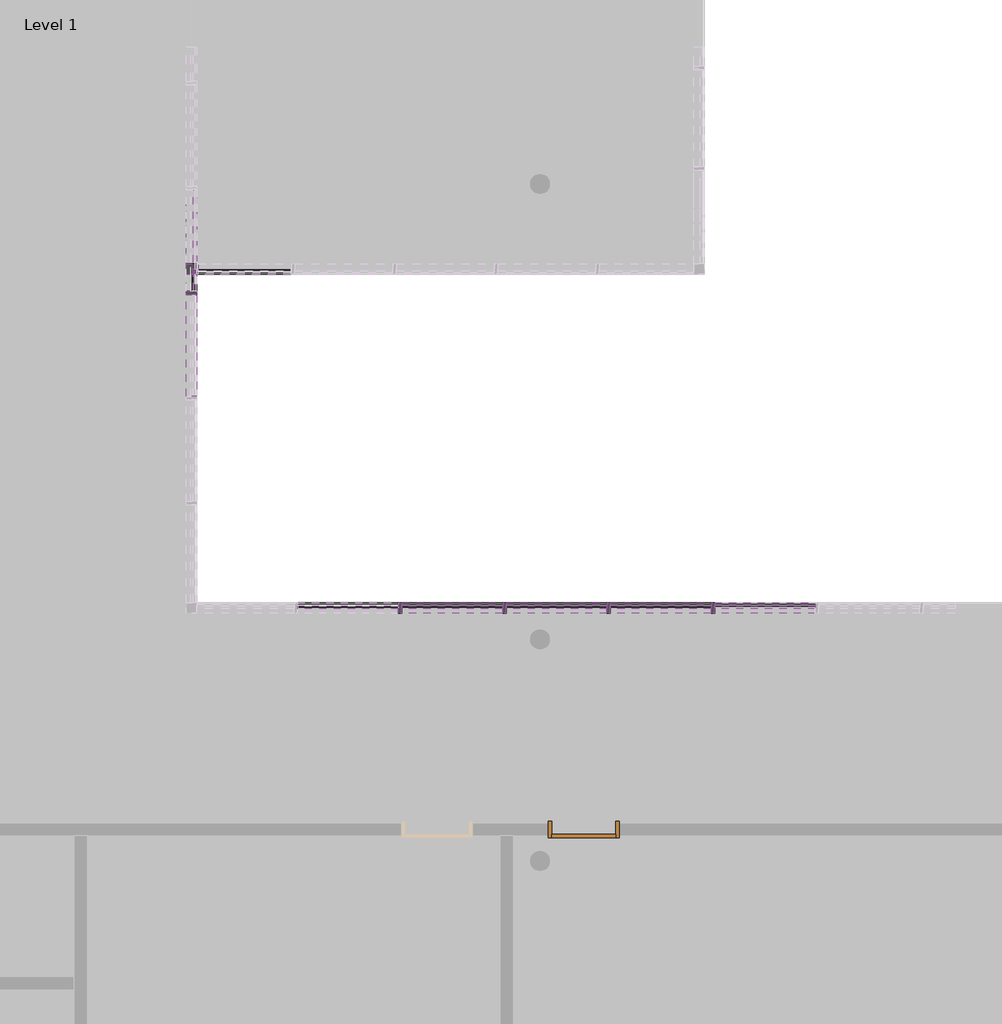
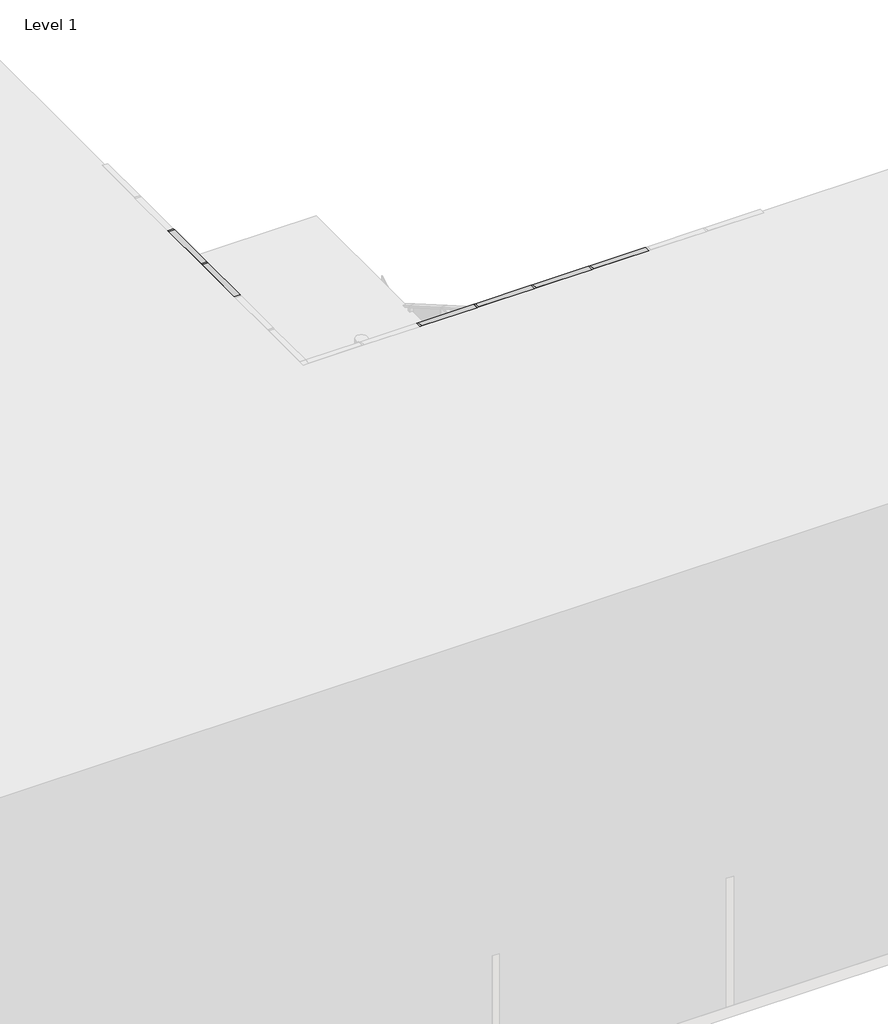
# One storey, part 2 of 27: 92 members, 36 plates, 1 door.
"""IFC4 building model written with IfcOpenShell, lengths in millimetres."""

from ifc_helpers import new_model, si_unit, origin, place, context, project, spatial, transform, mapped, element, save
from components import door_0915mm_x_2134mm_2aa27b83, quad_corner_mullion_quad_mullion_1_37ac55ff, quad_corner_mullion_quad_mullion_1_d5379b67, quad_corner_mullion_quad_mullion_1_470f416b, rectangular_mullion_50mm_x_150mm_5f185edf, rectangular_mullion_50mm_x_150mm_e13fe9f0, rectangular_mullion_50mm_x_150mm_70cae3e1, rectangular_mullion_50mm_x_150mm_5226f6e8, rectangular_mullion_50mm_x_150mm_3bb547da, rectangular_mullion_50mm_x_150mm_bbc1c4ea, rectangular_mullion_50mm_x_150mm_36202a7c, rectangular_mullion_50mm_x_150mm_84717ec5, rectangular_mullion_50mm_x_150mm_a6a3d5e8, rectangular_mullion_50mm_x_150mm_c3a19aad, rectangular_mullion_50mm_x_150mm_56029db9, rectangular_mullion_50mm_x_150mm_d48598d6, rectangular_mullion_50mm_x_150mm_1a36453b, system_panel_glazed_65478968, system_panel_glazed_4c130a31, system_panel_glazed_979b1f5c, system_panel_glazed_5501cdc8, system_panel_glazed_25246cb8, system_panel_solid_368a6b70, system_panel_solid_ece33ae8, system_panel_solid_7338a288, system_panel_solid_89a25cb9

model = new_model("IFC4")

# Units and contexts
model_context = context("Model", 3, world=origin())
ifc_project = project(units=[si_unit("LENGTHUNIT", "METRE", prefix="MILLI")], contexts=[model_context])

# Site, building, storey
site = spatial("IfcSite", under=ifc_project)
building = spatial("IfcBuilding", under=site)
storey = spatial("IfcBuildingStorey", under=building, Name="Level 1", Elevation=0.0)

# Door
placement = place(None, origin())
door_0915mm_x_2134mm_shape = door_0915mm_x_2134mm_2aa27b83(model_context)
element("IfcDoor", 1, ObjectType="m-doors-hm-f1-a : 0915mm x 2134mm", at=placement, inside=storey, context=model_context, shape_type="MappedRepresentation", body=[
    mapped(door_0915mm_x_2134mm_shape, transform((13061.1968037, -15479.7006057, 0.0), x_axis=(-1.0, 0.0, 0.0), y_axis=(0.0, -1.0, 0.0), z_axis=(0.0, 0.0, 1.0))),
])

# Members
quad_corner_mullion_quad_mullion_1_shape = quad_corner_mullion_quad_mullion_1_37ac55ff(model_context)
element("IfcMember", 2, ObjectType="Quad Corner Mullion : Quad Mullion 1", at=placement, inside=storey, context=model_context, shape_type="MappedRepresentation", body=[
    mapped(quad_corner_mullion_quad_mullion_1_shape, transform((7447.5010724, -7283.8611817, 0.0), x_axis=(0.0, 1.0, 0.0), y_axis=(1.0, 0.0, 0.0), z_axis=(0.0, 0.0, -1.0))),
])
quad_corner_mullion_quad_mullion_1_2_shape = quad_corner_mullion_quad_mullion_1_d5379b67(model_context)
element("IfcMember", 3, ObjectType="Quad Corner Mullion : Quad Mullion 1", at=placement, inside=storey, context=model_context, shape_type="MappedRepresentation", body=[
    mapped(quad_corner_mullion_quad_mullion_1_2_shape, transform((7447.5010724, -7283.8611817, 2440.0), x_axis=(0.0, 1.0, 0.0), y_axis=(1.0, 0.0, 0.0), z_axis=(0.0, 0.0, -1.0))),
])
element("IfcMember", 4, ObjectType="Quad Corner Mullion : Quad Mullion 1", at=placement, inside=storey, context=model_context, shape_type="MappedRepresentation", body=[
    mapped(quad_corner_mullion_quad_mullion_1_shape, transform((7447.5010724, -7283.8611817, 3800.0), x_axis=(0.0, 1.0, 0.0), y_axis=(1.0, 0.0, 0.0), z_axis=(0.0, 0.0, -1.0))),
])
quad_corner_mullion_quad_mullion_1_3_shape = quad_corner_mullion_quad_mullion_1_470f416b(model_context)
element("IfcMember", 5, ObjectType="Quad Corner Mullion : Quad Mullion 1", at=placement, inside=storey, context=model_context, shape_type="MappedRepresentation", body=[
    mapped(quad_corner_mullion_quad_mullion_1_3_shape, transform((7447.5010724, -7283.8611817, 6240.0), x_axis=(0.0, 1.0, 0.0), y_axis=(1.0, 0.0, 0.0), z_axis=(0.0, 0.0, -1.0))),
])
rectangular_mullion_50mm_x_150mm_shape = rectangular_mullion_50mm_x_150mm_5f185edf(model_context)
element("IfcMember", 6, ObjectType="Rectangular Mullion : 50mm x 150mm", at=placement, inside=storey, context=model_context, shape_type="MappedRepresentation", body=[
    mapped(rectangular_mullion_50mm_x_150mm_shape, transform((14934.8671735, -12132.3615692, 12400.0), x_axis=(0.0, 0.0, 1.0), y_axis=(0.0, 1.0, 0.0), z_axis=(-1.0, 0.0, 0.0))),
])
element("IfcMember", 7, ObjectType="Rectangular Mullion : 50mm x 150mm", at=placement, inside=storey, context=model_context, shape_type="MappedRepresentation", body=[
    mapped(rectangular_mullion_50mm_x_150mm_shape, transform((13442.3939533, -12132.3615692, 12400.0), x_axis=(0.0, 0.0, 1.0), y_axis=(0.0, 1.0, 0.0), z_axis=(-1.0, 0.0, 0.0))),
])
element("IfcMember", 8, ObjectType="Rectangular Mullion : 50mm x 150mm", at=placement, inside=storey, context=model_context, shape_type="MappedRepresentation", body=[
    mapped(rectangular_mullion_50mm_x_150mm_shape, transform((11949.9207332, -12132.3615692, 12400.0), x_axis=(0.0, 0.0, 1.0), y_axis=(0.0, 1.0, 0.0), z_axis=(-1.0, 0.0, 0.0))),
])
element("IfcMember", 9, ObjectType="Rectangular Mullion : 50mm x 150mm", at=placement, inside=storey, context=model_context, shape_type="MappedRepresentation", body=[
    mapped(rectangular_mullion_50mm_x_150mm_shape, transform((10457.447513, -12132.3615692, 12400.0), x_axis=(0.0, 0.0, 1.0), y_axis=(0.0, 1.0, 0.0), z_axis=(-1.0, 0.0, 0.0))),
])
element("IfcMember", 10, ObjectType="Rectangular Mullion : 50mm x 150mm", at=placement, inside=storey, context=model_context, shape_type="MappedRepresentation", body=[
    mapped(rectangular_mullion_50mm_x_150mm_shape, transform((14884.8671735, -12132.3615692, 0.0), x_axis=(0.0, 0.0, -1.0), y_axis=(0.0, 1.0, 0.0), z_axis=(1.0, 0.0, 0.0))),
])
element("IfcMember", 11, ObjectType="Rectangular Mullion : 50mm x 150mm", at=placement, inside=storey, context=model_context, shape_type="MappedRepresentation", body=[
    mapped(rectangular_mullion_50mm_x_150mm_shape, transform((13392.3939533, -12132.3615692, 0.0), x_axis=(0.0, 0.0, -1.0), y_axis=(0.0, 1.0, 0.0), z_axis=(1.0, 0.0, 0.0))),
])
element("IfcMember", 12, ObjectType="Rectangular Mullion : 50mm x 150mm", at=placement, inside=storey, context=model_context, shape_type="MappedRepresentation", body=[
    mapped(rectangular_mullion_50mm_x_150mm_shape, transform((11899.9207332, -12132.3615692, 0.0), x_axis=(0.0, 0.0, -1.0), y_axis=(0.0, 1.0, 0.0), z_axis=(1.0, 0.0, 0.0))),
])
element("IfcMember", 13, ObjectType="Rectangular Mullion : 50mm x 150mm", at=placement, inside=storey, context=model_context, shape_type="MappedRepresentation", body=[
    mapped(rectangular_mullion_50mm_x_150mm_shape, transform((10407.447513, -12132.3615692, 0.0), x_axis=(0.0, 0.0, -1.0), y_axis=(0.0, 1.0, 0.0), z_axis=(1.0, 0.0, 0.0))),
])
rectangular_mullion_50mm_x_150mm_2_shape = rectangular_mullion_50mm_x_150mm_e13fe9f0(model_context)
element("IfcMember", 14, ObjectType="Rectangular Mullion : 50mm x 150mm", at=placement, inside=storey, context=model_context, shape_type="MappedRepresentation", body=[
    mapped(rectangular_mullion_50mm_x_150mm_2_shape, transform((14934.8671735, -12132.3615692, 3800.0), x_axis=(0.0, 0.0, 1.0), y_axis=(0.0, 1.0, 0.0), z_axis=(-1.0, 0.0, 0.0))),
])
element("IfcMember", 15, ObjectType="Rectangular Mullion : 50mm x 150mm", at=placement, inside=storey, context=model_context, shape_type="MappedRepresentation", body=[
    mapped(rectangular_mullion_50mm_x_150mm_2_shape, transform((13442.3939533, -12132.3615692, 3800.0), x_axis=(0.0, 0.0, 1.0), y_axis=(0.0, 1.0, 0.0), z_axis=(-1.0, 0.0, 0.0))),
])
element("IfcMember", 16, ObjectType="Rectangular Mullion : 50mm x 150mm", at=placement, inside=storey, context=model_context, shape_type="MappedRepresentation", body=[
    mapped(rectangular_mullion_50mm_x_150mm_2_shape, transform((11949.9207332, -12132.3615692, 3800.0), x_axis=(0.0, 0.0, 1.0), y_axis=(0.0, 1.0, 0.0), z_axis=(-1.0, 0.0, 0.0))),
])
element("IfcMember", 17, ObjectType="Rectangular Mullion : 50mm x 150mm", at=placement, inside=storey, context=model_context, shape_type="MappedRepresentation", body=[
    mapped(rectangular_mullion_50mm_x_150mm_2_shape, transform((10457.447513, -12132.3615692, 3800.0), x_axis=(0.0, 0.0, 1.0), y_axis=(0.0, 1.0, 0.0), z_axis=(-1.0, 0.0, 0.0))),
])
element("IfcMember", 18, ObjectType="Rectangular Mullion : 50mm x 150mm", at=placement, inside=storey, context=model_context, shape_type="MappedRepresentation", body=[
    mapped(rectangular_mullion_50mm_x_150mm_2_shape, transform((14934.8671735, -12132.3615692, 7600.0), x_axis=(0.0, 0.0, 1.0), y_axis=(0.0, 1.0, 0.0), z_axis=(-1.0, 0.0, 0.0))),
])
element("IfcMember", 19, ObjectType="Rectangular Mullion : 50mm x 150mm", at=placement, inside=storey, context=model_context, shape_type="MappedRepresentation", body=[
    mapped(rectangular_mullion_50mm_x_150mm_2_shape, transform((13442.3939533, -12132.3615692, 7600.0), x_axis=(0.0, 0.0, 1.0), y_axis=(0.0, 1.0, 0.0), z_axis=(-1.0, 0.0, 0.0))),
])
element("IfcMember", 20, ObjectType="Rectangular Mullion : 50mm x 150mm", at=placement, inside=storey, context=model_context, shape_type="MappedRepresentation", body=[
    mapped(rectangular_mullion_50mm_x_150mm_2_shape, transform((11949.9207332, -12132.3615692, 7600.0), x_axis=(0.0, 0.0, 1.0), y_axis=(0.0, 1.0, 0.0), z_axis=(-1.0, 0.0, 0.0))),
])
element("IfcMember", 21, ObjectType="Rectangular Mullion : 50mm x 150mm", at=placement, inside=storey, context=model_context, shape_type="MappedRepresentation", body=[
    mapped(rectangular_mullion_50mm_x_150mm_2_shape, transform((10457.447513, -12132.3615692, 7600.0), x_axis=(0.0, 0.0, 1.0), y_axis=(0.0, 1.0, 0.0), z_axis=(-1.0, 0.0, 0.0))),
])
element("IfcMember", 22, ObjectType="Rectangular Mullion : 50mm x 150mm", at=placement, inside=storey, context=model_context, shape_type="MappedRepresentation", body=[
    mapped(rectangular_mullion_50mm_x_150mm_2_shape, transform((14934.8671735, -12132.3615692, 11400.0), x_axis=(0.0, 0.0, 1.0), y_axis=(0.0, 1.0, 0.0), z_axis=(-1.0, 0.0, 0.0))),
])
element("IfcMember", 23, ObjectType="Rectangular Mullion : 50mm x 150mm", at=placement, inside=storey, context=model_context, shape_type="MappedRepresentation", body=[
    mapped(rectangular_mullion_50mm_x_150mm_2_shape, transform((13442.3939533, -12132.3615692, 11400.0), x_axis=(0.0, 0.0, 1.0), y_axis=(0.0, 1.0, 0.0), z_axis=(-1.0, 0.0, 0.0))),
])
element("IfcMember", 24, ObjectType="Rectangular Mullion : 50mm x 150mm", at=placement, inside=storey, context=model_context, shape_type="MappedRepresentation", body=[
    mapped(rectangular_mullion_50mm_x_150mm_2_shape, transform((11949.9207332, -12132.3615692, 11400.0), x_axis=(0.0, 0.0, 1.0), y_axis=(0.0, 1.0, 0.0), z_axis=(-1.0, 0.0, 0.0))),
])
element("IfcMember", 25, ObjectType="Rectangular Mullion : 50mm x 150mm", at=placement, inside=storey, context=model_context, shape_type="MappedRepresentation", body=[
    mapped(rectangular_mullion_50mm_x_150mm_2_shape, transform((10457.447513, -12132.3615692, 11400.0), x_axis=(0.0, 0.0, 1.0), y_axis=(0.0, 1.0, 0.0), z_axis=(-1.0, 0.0, 0.0))),
])
element("IfcMember", 26, ObjectType="Rectangular Mullion : 50mm x 150mm", at=placement, inside=storey, context=model_context, shape_type="MappedRepresentation", body=[
    mapped(rectangular_mullion_50mm_x_150mm_2_shape, transform((14934.8671735, -12132.3615692, 2440.0), x_axis=(0.0, 0.0, 1.0), y_axis=(0.0, 1.0, 0.0), z_axis=(-1.0, 0.0, 0.0))),
])
element("IfcMember", 27, ObjectType="Rectangular Mullion : 50mm x 150mm", at=placement, inside=storey, context=model_context, shape_type="MappedRepresentation", body=[
    mapped(rectangular_mullion_50mm_x_150mm_2_shape, transform((13442.3939533, -12132.3615692, 2440.0), x_axis=(0.0, 0.0, 1.0), y_axis=(0.0, 1.0, 0.0), z_axis=(-1.0, 0.0, 0.0))),
])
element("IfcMember", 28, ObjectType="Rectangular Mullion : 50mm x 150mm", at=placement, inside=storey, context=model_context, shape_type="MappedRepresentation", body=[
    mapped(rectangular_mullion_50mm_x_150mm_2_shape, transform((11949.9207332, -12132.3615692, 2440.0), x_axis=(0.0, 0.0, 1.0), y_axis=(0.0, 1.0, 0.0), z_axis=(-1.0, 0.0, 0.0))),
])
element("IfcMember", 29, ObjectType="Rectangular Mullion : 50mm x 150mm", at=placement, inside=storey, context=model_context, shape_type="MappedRepresentation", body=[
    mapped(rectangular_mullion_50mm_x_150mm_2_shape, transform((10457.447513, -12132.3615692, 2440.0), x_axis=(0.0, 0.0, 1.0), y_axis=(0.0, 1.0, 0.0), z_axis=(-1.0, 0.0, 0.0))),
])
element("IfcMember", 30, ObjectType="Rectangular Mullion : 50mm x 150mm", at=placement, inside=storey, context=model_context, shape_type="MappedRepresentation", body=[
    mapped(rectangular_mullion_50mm_x_150mm_2_shape, transform((14934.8671735, -12132.3615692, 6240.0), x_axis=(0.0, 0.0, 1.0), y_axis=(0.0, 1.0, 0.0), z_axis=(-1.0, 0.0, 0.0))),
])
element("IfcMember", 31, ObjectType="Rectangular Mullion : 50mm x 150mm", at=placement, inside=storey, context=model_context, shape_type="MappedRepresentation", body=[
    mapped(rectangular_mullion_50mm_x_150mm_2_shape, transform((13442.3939533, -12132.3615692, 6240.0), x_axis=(0.0, 0.0, 1.0), y_axis=(0.0, 1.0, 0.0), z_axis=(-1.0, 0.0, 0.0))),
])
element("IfcMember", 32, ObjectType="Rectangular Mullion : 50mm x 150mm", at=placement, inside=storey, context=model_context, shape_type="MappedRepresentation", body=[
    mapped(rectangular_mullion_50mm_x_150mm_2_shape, transform((11949.9207332, -12132.3615692, 6240.0), x_axis=(0.0, 0.0, 1.0), y_axis=(0.0, 1.0, 0.0), z_axis=(-1.0, 0.0, 0.0))),
])
element("IfcMember", 33, ObjectType="Rectangular Mullion : 50mm x 150mm", at=placement, inside=storey, context=model_context, shape_type="MappedRepresentation", body=[
    mapped(rectangular_mullion_50mm_x_150mm_2_shape, transform((10457.447513, -12132.3615692, 6240.0), x_axis=(0.0, 0.0, 1.0), y_axis=(0.0, 1.0, 0.0), z_axis=(-1.0, 0.0, 0.0))),
])
element("IfcMember", 34, ObjectType="Rectangular Mullion : 50mm x 150mm", at=placement, inside=storey, context=model_context, shape_type="MappedRepresentation", body=[
    mapped(rectangular_mullion_50mm_x_150mm_2_shape, transform((14934.8671735, -12132.3615692, 10040.0), x_axis=(0.0, 0.0, 1.0), y_axis=(0.0, 1.0, 0.0), z_axis=(-1.0, 0.0, 0.0))),
])
element("IfcMember", 35, ObjectType="Rectangular Mullion : 50mm x 150mm", at=placement, inside=storey, context=model_context, shape_type="MappedRepresentation", body=[
    mapped(rectangular_mullion_50mm_x_150mm_2_shape, transform((13442.3939533, -12132.3615692, 10040.0), x_axis=(0.0, 0.0, 1.0), y_axis=(0.0, 1.0, 0.0), z_axis=(-1.0, 0.0, 0.0))),
])
element("IfcMember", 36, ObjectType="Rectangular Mullion : 50mm x 150mm", at=placement, inside=storey, context=model_context, shape_type="MappedRepresentation", body=[
    mapped(rectangular_mullion_50mm_x_150mm_2_shape, transform((11949.9207332, -12132.3615692, 10040.0), x_axis=(0.0, 0.0, 1.0), y_axis=(0.0, 1.0, 0.0), z_axis=(-1.0, 0.0, 0.0))),
])
element("IfcMember", 37, ObjectType="Rectangular Mullion : 50mm x 150mm", at=placement, inside=storey, context=model_context, shape_type="MappedRepresentation", body=[
    mapped(rectangular_mullion_50mm_x_150mm_2_shape, transform((10457.447513, -12132.3615692, 10040.0), x_axis=(0.0, 0.0, 1.0), y_axis=(0.0, 1.0, 0.0), z_axis=(-1.0, 0.0, 0.0))),
])
rectangular_mullion_50mm_x_150mm_3_shape = rectangular_mullion_50mm_x_150mm_70cae3e1(model_context)
element("IfcMember", 38, ObjectType="Rectangular Mullion : 50mm x 150mm", at=placement, inside=storey, context=model_context, shape_type="MappedRepresentation", body=[
    mapped(rectangular_mullion_50mm_x_150mm_3_shape, transform((7447.5010724, -7650.6186012, 12400.0), x_axis=(0.0, 0.0, 1.0), y_axis=(1.0, 0.0, 0.0), z_axis=(0.0, 1.0, 0.0))),
])
element("IfcMember", 39, ObjectType="Rectangular Mullion : 50mm x 150mm", at=placement, inside=storey, context=model_context, shape_type="MappedRepresentation", body=[
    mapped(rectangular_mullion_50mm_x_150mm_3_shape, transform((7447.5010724, -6148.3709452, 12400.0), x_axis=(0.0, 0.0, 1.0), y_axis=(1.0, 0.0, 0.0), z_axis=(0.0, 1.0, 0.0))),
])
rectangular_mullion_50mm_x_150mm_4_shape = rectangular_mullion_50mm_x_150mm_5226f6e8(model_context)
element("IfcMember", 40, ObjectType="Rectangular Mullion : 50mm x 150mm", at=placement, inside=storey, context=model_context, shape_type="MappedRepresentation", body=[
    mapped(rectangular_mullion_50mm_x_150mm_4_shape, transform((7447.5010724, -7650.6186012, 3800.0), x_axis=(0.0, 0.0, 1.0), y_axis=(1.0, 0.0, 0.0), z_axis=(0.0, 1.0, 0.0))),
])
element("IfcMember", 41, ObjectType="Rectangular Mullion : 50mm x 150mm", at=placement, inside=storey, context=model_context, shape_type="MappedRepresentation", body=[
    mapped(rectangular_mullion_50mm_x_150mm_4_shape, transform((7447.5010724, -7650.6186012, 7600.0), x_axis=(0.0, 0.0, 1.0), y_axis=(1.0, 0.0, 0.0), z_axis=(0.0, 1.0, 0.0))),
])
element("IfcMember", 42, ObjectType="Rectangular Mullion : 50mm x 150mm", at=placement, inside=storey, context=model_context, shape_type="MappedRepresentation", body=[
    mapped(rectangular_mullion_50mm_x_150mm_4_shape, transform((7447.5010724, -6148.3709452, 7600.0), x_axis=(0.0, 0.0, 1.0), y_axis=(1.0, 0.0, 0.0), z_axis=(0.0, 1.0, 0.0))),
])
element("IfcMember", 43, ObjectType="Rectangular Mullion : 50mm x 150mm", at=placement, inside=storey, context=model_context, shape_type="MappedRepresentation", body=[
    mapped(rectangular_mullion_50mm_x_150mm_4_shape, transform((7447.5010724, -7650.6186012, 11400.0), x_axis=(0.0, 0.0, 1.0), y_axis=(1.0, 0.0, 0.0), z_axis=(0.0, 1.0, 0.0))),
])
element("IfcMember", 44, ObjectType="Rectangular Mullion : 50mm x 150mm", at=placement, inside=storey, context=model_context, shape_type="MappedRepresentation", body=[
    mapped(rectangular_mullion_50mm_x_150mm_4_shape, transform((7447.5010724, -6148.3709452, 11400.0), x_axis=(0.0, 0.0, 1.0), y_axis=(1.0, 0.0, 0.0), z_axis=(0.0, 1.0, 0.0))),
])
element("IfcMember", 45, ObjectType="Rectangular Mullion : 50mm x 150mm", at=placement, inside=storey, context=model_context, shape_type="MappedRepresentation", body=[
    mapped(rectangular_mullion_50mm_x_150mm_4_shape, transform((7447.5010724, -7650.6186012, 10040.0), x_axis=(0.0, 0.0, 1.0), y_axis=(1.0, 0.0, 0.0), z_axis=(0.0, 1.0, 0.0))),
])
element("IfcMember", 46, ObjectType="Rectangular Mullion : 50mm x 150mm", at=placement, inside=storey, context=model_context, shape_type="MappedRepresentation", body=[
    mapped(rectangular_mullion_50mm_x_150mm_4_shape, transform((7447.5010724, -7650.6186012, 6240.0), x_axis=(0.0, 0.0, 1.0), y_axis=(1.0, 0.0, 0.0), z_axis=(0.0, 1.0, 0.0))),
])
element("IfcMember", 47, ObjectType="Rectangular Mullion : 50mm x 150mm", at=placement, inside=storey, context=model_context, shape_type="MappedRepresentation", body=[
    mapped(rectangular_mullion_50mm_x_150mm_4_shape, transform((7447.5010724, -7650.6186012, 2440.0), x_axis=(0.0, 0.0, 1.0), y_axis=(1.0, 0.0, 0.0), z_axis=(0.0, 1.0, 0.0))),
])
rectangular_mullion_50mm_x_150mm_5_shape = rectangular_mullion_50mm_x_150mm_3bb547da(model_context)
element("IfcMember", 48, ObjectType="Rectangular Mullion : 50mm x 150mm", at=placement, inside=storey, context=model_context, shape_type="MappedRepresentation", body=[
    mapped(rectangular_mullion_50mm_x_150mm_5_shape, transform((7522.5010724, -7283.8611817, 0.0), x_axis=(0.0, 0.0, -1.0), y_axis=(0.0, -1.0, 0.0), z_axis=(-1.0, 0.0, 0.0))),
])
rectangular_mullion_50mm_x_150mm_6_shape = rectangular_mullion_50mm_x_150mm_bbc1c4ea(model_context)
element("IfcMember", 49, ObjectType="Rectangular Mullion : 50mm x 150mm", at=placement, inside=storey, context=model_context, shape_type="MappedRepresentation", body=[
    mapped(rectangular_mullion_50mm_x_150mm_6_shape, transform((14909.8671735, -12132.3615692, 11400.0), x_axis=(-1.0, 0.0, 0.0), y_axis=(0.0, 1.0, 0.0), z_axis=(0.0, 0.0, -1.0))),
])
element("IfcMember", 50, ObjectType="Rectangular Mullion : 50mm x 150mm", at=placement, inside=storey, context=model_context, shape_type="MappedRepresentation", body=[
    mapped(rectangular_mullion_50mm_x_150mm_6_shape, transform((13417.3939533, -12132.3615692, 11400.0), x_axis=(-1.0, 0.0, 0.0), y_axis=(0.0, 1.0, 0.0), z_axis=(0.0, 0.0, -1.0))),
])
element("IfcMember", 51, ObjectType="Rectangular Mullion : 50mm x 150mm", at=placement, inside=storey, context=model_context, shape_type="MappedRepresentation", body=[
    mapped(rectangular_mullion_50mm_x_150mm_6_shape, transform((11924.9207332, -12132.3615692, 11400.0), x_axis=(-1.0, 0.0, 0.0), y_axis=(0.0, 1.0, 0.0), z_axis=(0.0, 0.0, -1.0))),
])
element("IfcMember", 52, ObjectType="Rectangular Mullion : 50mm x 150mm", at=placement, inside=storey, context=model_context, shape_type="MappedRepresentation", body=[
    mapped(rectangular_mullion_50mm_x_150mm_6_shape, transform((10432.447513, -12132.3615692, 11400.0), x_axis=(-1.0, 0.0, 0.0), y_axis=(0.0, 1.0, 0.0), z_axis=(0.0, 0.0, -1.0))),
])
element("IfcMember", 53, ObjectType="Rectangular Mullion : 50mm x 150mm", at=placement, inside=storey, context=model_context, shape_type="MappedRepresentation", body=[
    mapped(rectangular_mullion_50mm_x_150mm_6_shape, transform((7447.5010724, -7625.6186012, 11400.0), x_axis=(0.0, 1.0, 0.0), y_axis=(1.0, 0.0, 0.0), z_axis=(0.0, 0.0, -1.0))),
])
element("IfcMember", 54, ObjectType="Rectangular Mullion : 50mm x 150mm", at=placement, inside=storey, context=model_context, shape_type="MappedRepresentation", body=[
    mapped(rectangular_mullion_50mm_x_150mm_6_shape, transform((7447.5010724, -6123.3709452, 11400.0), x_axis=(0.0, 1.0, 0.0), y_axis=(1.0, 0.0, 0.0), z_axis=(0.0, 0.0, -1.0))),
])
rectangular_mullion_50mm_x_150mm_7_shape = rectangular_mullion_50mm_x_150mm_36202a7c(model_context)
element("IfcMember", 55, ObjectType="Rectangular Mullion : 50mm x 150mm", at=placement, inside=storey, context=model_context, shape_type="MappedRepresentation", body=[
    mapped(rectangular_mullion_50mm_x_150mm_7_shape, transform((14909.8671735, -12132.3615692, 0.0), x_axis=(-1.0, 0.0, 0.0), y_axis=(0.0, 1.0, 0.0), z_axis=(0.0, 0.0, -1.0))),
])
element("IfcMember", 56, ObjectType="Rectangular Mullion : 50mm x 150mm", at=placement, inside=storey, context=model_context, shape_type="MappedRepresentation", body=[
    mapped(rectangular_mullion_50mm_x_150mm_7_shape, transform((13417.3939533, -12132.3615692, 0.0), x_axis=(-1.0, 0.0, 0.0), y_axis=(0.0, 1.0, 0.0), z_axis=(0.0, 0.0, -1.0))),
])
element("IfcMember", 57, ObjectType="Rectangular Mullion : 50mm x 150mm", at=placement, inside=storey, context=model_context, shape_type="MappedRepresentation", body=[
    mapped(rectangular_mullion_50mm_x_150mm_7_shape, transform((11924.9207332, -12132.3615692, 0.0), x_axis=(-1.0, 0.0, 0.0), y_axis=(0.0, 1.0, 0.0), z_axis=(0.0, 0.0, -1.0))),
])
element("IfcMember", 58, ObjectType="Rectangular Mullion : 50mm x 150mm", at=placement, inside=storey, context=model_context, shape_type="MappedRepresentation", body=[
    mapped(rectangular_mullion_50mm_x_150mm_7_shape, transform((10432.447513, -12132.3615692, 0.0), x_axis=(-1.0, 0.0, 0.0), y_axis=(0.0, 1.0, 0.0), z_axis=(0.0, 0.0, -1.0))),
])
element("IfcMember", 59, ObjectType="Rectangular Mullion : 50mm x 150mm", at=placement, inside=storey, context=model_context, shape_type="MappedRepresentation", body=[
    mapped(rectangular_mullion_50mm_x_150mm_7_shape, transform((7447.5010724, -7625.6186012, 0.0), x_axis=(0.0, 1.0, 0.0), y_axis=(1.0, 0.0, 0.0), z_axis=(0.0, 0.0, -1.0))),
])
rectangular_mullion_50mm_x_150mm_8_shape = rectangular_mullion_50mm_x_150mm_84717ec5(model_context)
element("IfcMember", 60, ObjectType="Rectangular Mullion : 50mm x 150mm", at=placement, inside=storey, context=model_context, shape_type="MappedRepresentation", body=[
    mapped(rectangular_mullion_50mm_x_150mm_8_shape, transform((14909.8671735, -12132.3615692, 2440.0), x_axis=(-1.0, 0.0, 0.0), y_axis=(0.0, 1.0, 0.0), z_axis=(0.0, 0.0, -1.0))),
])
element("IfcMember", 61, ObjectType="Rectangular Mullion : 50mm x 150mm", at=placement, inside=storey, context=model_context, shape_type="MappedRepresentation", body=[
    mapped(rectangular_mullion_50mm_x_150mm_8_shape, transform((13417.3939533, -12132.3615692, 2440.0), x_axis=(-1.0, 0.0, 0.0), y_axis=(0.0, 1.0, 0.0), z_axis=(0.0, 0.0, -1.0))),
])
element("IfcMember", 62, ObjectType="Rectangular Mullion : 50mm x 150mm", at=placement, inside=storey, context=model_context, shape_type="MappedRepresentation", body=[
    mapped(rectangular_mullion_50mm_x_150mm_8_shape, transform((11924.9207332, -12132.3615692, 2440.0), x_axis=(-1.0, 0.0, 0.0), y_axis=(0.0, 1.0, 0.0), z_axis=(0.0, 0.0, -1.0))),
])
element("IfcMember", 63, ObjectType="Rectangular Mullion : 50mm x 150mm", at=placement, inside=storey, context=model_context, shape_type="MappedRepresentation", body=[
    mapped(rectangular_mullion_50mm_x_150mm_8_shape, transform((10432.447513, -12132.3615692, 2440.0), x_axis=(-1.0, 0.0, 0.0), y_axis=(0.0, 1.0, 0.0), z_axis=(0.0, 0.0, -1.0))),
])
element("IfcMember", 64, ObjectType="Rectangular Mullion : 50mm x 150mm", at=placement, inside=storey, context=model_context, shape_type="MappedRepresentation", body=[
    mapped(rectangular_mullion_50mm_x_150mm_8_shape, transform((14909.8671735, -12132.3615692, 6240.0), x_axis=(-1.0, 0.0, 0.0), y_axis=(0.0, 1.0, 0.0), z_axis=(0.0, 0.0, -1.0))),
])
element("IfcMember", 65, ObjectType="Rectangular Mullion : 50mm x 150mm", at=placement, inside=storey, context=model_context, shape_type="MappedRepresentation", body=[
    mapped(rectangular_mullion_50mm_x_150mm_8_shape, transform((13417.3939533, -12132.3615692, 6240.0), x_axis=(-1.0, 0.0, 0.0), y_axis=(0.0, 1.0, 0.0), z_axis=(0.0, 0.0, -1.0))),
])
element("IfcMember", 66, ObjectType="Rectangular Mullion : 50mm x 150mm", at=placement, inside=storey, context=model_context, shape_type="MappedRepresentation", body=[
    mapped(rectangular_mullion_50mm_x_150mm_8_shape, transform((11924.9207332, -12132.3615692, 6240.0), x_axis=(-1.0, 0.0, 0.0), y_axis=(0.0, 1.0, 0.0), z_axis=(0.0, 0.0, -1.0))),
])
element("IfcMember", 67, ObjectType="Rectangular Mullion : 50mm x 150mm", at=placement, inside=storey, context=model_context, shape_type="MappedRepresentation", body=[
    mapped(rectangular_mullion_50mm_x_150mm_8_shape, transform((10432.447513, -12132.3615692, 6240.0), x_axis=(-1.0, 0.0, 0.0), y_axis=(0.0, 1.0, 0.0), z_axis=(0.0, 0.0, -1.0))),
])
element("IfcMember", 68, ObjectType="Rectangular Mullion : 50mm x 150mm", at=placement, inside=storey, context=model_context, shape_type="MappedRepresentation", body=[
    mapped(rectangular_mullion_50mm_x_150mm_8_shape, transform((14909.8671735, -12132.3615692, 10040.0), x_axis=(-1.0, 0.0, 0.0), y_axis=(0.0, 1.0, 0.0), z_axis=(0.0, 0.0, -1.0))),
])
element("IfcMember", 69, ObjectType="Rectangular Mullion : 50mm x 150mm", at=placement, inside=storey, context=model_context, shape_type="MappedRepresentation", body=[
    mapped(rectangular_mullion_50mm_x_150mm_8_shape, transform((13417.3939533, -12132.3615692, 10040.0), x_axis=(-1.0, 0.0, 0.0), y_axis=(0.0, 1.0, 0.0), z_axis=(0.0, 0.0, -1.0))),
])
element("IfcMember", 70, ObjectType="Rectangular Mullion : 50mm x 150mm", at=placement, inside=storey, context=model_context, shape_type="MappedRepresentation", body=[
    mapped(rectangular_mullion_50mm_x_150mm_8_shape, transform((11924.9207332, -12132.3615692, 10040.0), x_axis=(-1.0, 0.0, 0.0), y_axis=(0.0, 1.0, 0.0), z_axis=(0.0, 0.0, -1.0))),
])
element("IfcMember", 71, ObjectType="Rectangular Mullion : 50mm x 150mm", at=placement, inside=storey, context=model_context, shape_type="MappedRepresentation", body=[
    mapped(rectangular_mullion_50mm_x_150mm_8_shape, transform((10432.447513, -12132.3615692, 10040.0), x_axis=(-1.0, 0.0, 0.0), y_axis=(0.0, 1.0, 0.0), z_axis=(0.0, 0.0, -1.0))),
])
element("IfcMember", 72, ObjectType="Rectangular Mullion : 50mm x 150mm", at=placement, inside=storey, context=model_context, shape_type="MappedRepresentation", body=[
    mapped(rectangular_mullion_50mm_x_150mm_8_shape, transform((7447.5010724, -7625.6186012, 10040.0), x_axis=(0.0, 1.0, 0.0), y_axis=(1.0, 0.0, 0.0), z_axis=(0.0, 0.0, -1.0))),
])
element("IfcMember", 73, ObjectType="Rectangular Mullion : 50mm x 150mm", at=placement, inside=storey, context=model_context, shape_type="MappedRepresentation", body=[
    mapped(rectangular_mullion_50mm_x_150mm_8_shape, transform((7447.5010724, -7625.6186012, 6240.0), x_axis=(0.0, 1.0, 0.0), y_axis=(1.0, 0.0, 0.0), z_axis=(0.0, 0.0, -1.0))),
])
element("IfcMember", 74, ObjectType="Rectangular Mullion : 50mm x 150mm", at=placement, inside=storey, context=model_context, shape_type="MappedRepresentation", body=[
    mapped(rectangular_mullion_50mm_x_150mm_8_shape, transform((7447.5010724, -7625.6186012, 2440.0), x_axis=(0.0, 1.0, 0.0), y_axis=(1.0, 0.0, 0.0), z_axis=(0.0, 0.0, -1.0))),
])
element("IfcMember", 75, ObjectType="Rectangular Mullion : 50mm x 150mm", at=placement, inside=storey, context=model_context, shape_type="MappedRepresentation", body=[
    mapped(rectangular_mullion_50mm_x_150mm_7_shape, transform((14909.8671735, -12132.3615692, 3800.0), x_axis=(-1.0, 0.0, 0.0), y_axis=(0.0, 1.0, 0.0), z_axis=(0.0, 0.0, -1.0))),
])
element("IfcMember", 76, ObjectType="Rectangular Mullion : 50mm x 150mm", at=placement, inside=storey, context=model_context, shape_type="MappedRepresentation", body=[
    mapped(rectangular_mullion_50mm_x_150mm_7_shape, transform((13417.3939533, -12132.3615692, 3800.0), x_axis=(-1.0, 0.0, 0.0), y_axis=(0.0, 1.0, 0.0), z_axis=(0.0, 0.0, -1.0))),
])
element("IfcMember", 77, ObjectType="Rectangular Mullion : 50mm x 150mm", at=placement, inside=storey, context=model_context, shape_type="MappedRepresentation", body=[
    mapped(rectangular_mullion_50mm_x_150mm_7_shape, transform((11924.9207332, -12132.3615692, 3800.0), x_axis=(-1.0, 0.0, 0.0), y_axis=(0.0, 1.0, 0.0), z_axis=(0.0, 0.0, -1.0))),
])
element("IfcMember", 78, ObjectType="Rectangular Mullion : 50mm x 150mm", at=placement, inside=storey, context=model_context, shape_type="MappedRepresentation", body=[
    mapped(rectangular_mullion_50mm_x_150mm_7_shape, transform((10432.447513, -12132.3615692, 3800.0), x_axis=(-1.0, 0.0, 0.0), y_axis=(0.0, 1.0, 0.0), z_axis=(0.0, 0.0, -1.0))),
])
element("IfcMember", 79, ObjectType="Rectangular Mullion : 50mm x 150mm", at=placement, inside=storey, context=model_context, shape_type="MappedRepresentation", body=[
    mapped(rectangular_mullion_50mm_x_150mm_7_shape, transform((14909.8671735, -12132.3615692, 7600.0), x_axis=(-1.0, 0.0, 0.0), y_axis=(0.0, 1.0, 0.0), z_axis=(0.0, 0.0, -1.0))),
])
element("IfcMember", 80, ObjectType="Rectangular Mullion : 50mm x 150mm", at=placement, inside=storey, context=model_context, shape_type="MappedRepresentation", body=[
    mapped(rectangular_mullion_50mm_x_150mm_7_shape, transform((13417.3939533, -12132.3615692, 7600.0), x_axis=(-1.0, 0.0, 0.0), y_axis=(0.0, 1.0, 0.0), z_axis=(0.0, 0.0, -1.0))),
])
element("IfcMember", 81, ObjectType="Rectangular Mullion : 50mm x 150mm", at=placement, inside=storey, context=model_context, shape_type="MappedRepresentation", body=[
    mapped(rectangular_mullion_50mm_x_150mm_7_shape, transform((11924.9207332, -12132.3615692, 7600.0), x_axis=(-1.0, 0.0, 0.0), y_axis=(0.0, 1.0, 0.0), z_axis=(0.0, 0.0, -1.0))),
])
element("IfcMember", 82, ObjectType="Rectangular Mullion : 50mm x 150mm", at=placement, inside=storey, context=model_context, shape_type="MappedRepresentation", body=[
    mapped(rectangular_mullion_50mm_x_150mm_7_shape, transform((10432.447513, -12132.3615692, 7600.0), x_axis=(-1.0, 0.0, 0.0), y_axis=(0.0, 1.0, 0.0), z_axis=(0.0, 0.0, -1.0))),
])
element("IfcMember", 83, ObjectType="Rectangular Mullion : 50mm x 150mm", at=placement, inside=storey, context=model_context, shape_type="MappedRepresentation", body=[
    mapped(rectangular_mullion_50mm_x_150mm_7_shape, transform((7447.5010724, -7625.6186012, 3800.0), x_axis=(0.0, 1.0, 0.0), y_axis=(1.0, 0.0, 0.0), z_axis=(0.0, 0.0, -1.0))),
])
element("IfcMember", 84, ObjectType="Rectangular Mullion : 50mm x 150mm", at=placement, inside=storey, context=model_context, shape_type="MappedRepresentation", body=[
    mapped(rectangular_mullion_50mm_x_150mm_7_shape, transform((7447.5010724, -7625.6186012, 7600.0), x_axis=(0.0, 1.0, 0.0), y_axis=(1.0, 0.0, 0.0), z_axis=(0.0, 0.0, -1.0))),
])
element("IfcMember", 85, ObjectType="Rectangular Mullion : 50mm x 150mm", at=placement, inside=storey, context=model_context, shape_type="MappedRepresentation", body=[
    mapped(rectangular_mullion_50mm_x_150mm_7_shape, transform((7447.5010724, -6123.3709452, 7600.0), x_axis=(0.0, 1.0, 0.0), y_axis=(1.0, 0.0, 0.0), z_axis=(0.0, 0.0, -1.0))),
])
rectangular_mullion_50mm_x_150mm_9_shape = rectangular_mullion_50mm_x_150mm_a6a3d5e8(model_context)
element("IfcMember", 86, ObjectType="Rectangular Mullion : 50mm x 150mm", at=placement, inside=storey, context=model_context, shape_type="MappedRepresentation", body=[
    mapped(rectangular_mullion_50mm_x_150mm_9_shape, transform((7447.5010724, -7600.6186012, 0.0), x_axis=(0.0, 0.0, -1.0), y_axis=(1.0, 0.0, 0.0), z_axis=(0.0, -1.0, 0.0))),
])
rectangular_mullion_50mm_x_150mm_10_shape = rectangular_mullion_50mm_x_150mm_c3a19aad(model_context)
element("IfcMember", 87, ObjectType="Rectangular Mullion : 50mm x 150mm", at=placement, inside=storey, context=model_context, shape_type="MappedRepresentation", body=[
    mapped(rectangular_mullion_50mm_x_150mm_10_shape, transform((7447.5010724, -7358.8611817, 3800.0), x_axis=(0.0, 0.0, 1.0), y_axis=(1.0, 0.0, 0.0), z_axis=(0.0, 1.0, 0.0))),
])
element("IfcMember", 88, ObjectType="Rectangular Mullion : 50mm x 150mm", at=placement, inside=storey, context=model_context, shape_type="MappedRepresentation", body=[
    mapped(rectangular_mullion_50mm_x_150mm_10_shape, transform((7447.5010724, -7358.8611817, 6240.0), x_axis=(0.0, 0.0, 1.0), y_axis=(1.0, 0.0, 0.0), z_axis=(0.0, 1.0, 0.0))),
])
element("IfcMember", 89, ObjectType="Rectangular Mullion : 50mm x 150mm", at=placement, inside=storey, context=model_context, shape_type="MappedRepresentation", body=[
    mapped(rectangular_mullion_50mm_x_150mm_10_shape, transform((7447.5010724, -7358.8611817, 2440.0), x_axis=(0.0, 0.0, 1.0), y_axis=(1.0, 0.0, 0.0), z_axis=(0.0, 1.0, 0.0))),
])
element("IfcMember", 90, ObjectType="Rectangular Mullion : 50mm x 150mm", at=placement, inside=storey, context=model_context, shape_type="MappedRepresentation", body=[
    mapped(rectangular_mullion_50mm_x_150mm_6_shape, transform((7447.5010724, -6123.3709452, 6600.0), x_axis=(0.0, 1.0, 0.0), y_axis=(1.0, 0.0, 0.0), z_axis=(0.0, 0.0, -1.0))),
])
rectangular_mullion_50mm_x_150mm_11_shape = rectangular_mullion_50mm_x_150mm_56029db9(model_context)
element("IfcMember", 91, ObjectType="Rectangular Mullion : 50mm x 150mm", at=placement, inside=storey, context=model_context, shape_type="MappedRepresentation", body=[
    mapped(rectangular_mullion_50mm_x_150mm_11_shape, transform((7447.5010724, -7283.8611817, 6600.0), x_axis=(0.0, 0.0, -1.0), y_axis=(1.0, 0.0, 0.0), z_axis=(0.0, -1.0, 0.0))),
])
rectangular_mullion_50mm_x_150mm_12_shape = rectangular_mullion_50mm_x_150mm_d48598d6(model_context)
element("IfcMember", 92, ObjectType="Rectangular Mullion : 50mm x 150mm", at=placement, inside=storey, context=model_context, shape_type="MappedRepresentation", body=[
    mapped(rectangular_mullion_50mm_x_150mm_12_shape, transform((7497.0010724, -7283.8611817, 8424.5150656), x_axis=(-1.0, 0.0, 0.0), y_axis=(0.0, -1.0, 0.0), z_axis=(0.0, 0.0, 1.0))),
])
rectangular_mullion_50mm_x_150mm_13_shape = rectangular_mullion_50mm_x_150mm_1a36453b(model_context)
element("IfcMember", 93, ObjectType="Rectangular Mullion : 50mm x 150mm", at=placement, inside=storey, context=model_context, shape_type="MappedRepresentation", body=[
    mapped(rectangular_mullion_50mm_x_150mm_13_shape, transform((7497.0010724, -7283.8611817, 7600.0), x_axis=(-1.0, 0.0, 0.0), y_axis=(0.0, -1.0, 0.0), z_axis=(0.0, 0.0, 1.0))),
])

# Plates
system_panel_glazed_shape = system_panel_glazed_65478968(model_context)
element("IfcPlate", 94, ObjectType="System Panel : Glazed", at=placement, inside=storey, context=model_context, shape_type="MappedRepresentation", body=[
    mapped(system_panel_glazed_shape, transform((15656.1037835, -12132.3615692, 50.0), x_axis=(-1.0, 0.0, 0.0), y_axis=(0.0, -1.0, 0.0), z_axis=(0.0, 0.0, 1.0))),
])
element("IfcPlate", 95, ObjectType="System Panel : Glazed", at=placement, inside=storey, context=model_context, shape_type="MappedRepresentation", body=[
    mapped(system_panel_glazed_shape, transform((14163.6305634, -12132.3615692, 50.0), x_axis=(-1.0, 0.0, 0.0), y_axis=(0.0, -1.0, 0.0), z_axis=(0.0, 0.0, 1.0))),
])
element("IfcPlate", 96, ObjectType="System Panel : Glazed", at=placement, inside=storey, context=model_context, shape_type="MappedRepresentation", body=[
    mapped(system_panel_glazed_shape, transform((12671.1573432, -12132.3615692, 50.0), x_axis=(-1.0, 0.0, 0.0), y_axis=(0.0, -1.0, 0.0), z_axis=(0.0, 0.0, 1.0))),
])
element("IfcPlate", 97, ObjectType="System Panel : Glazed", at=placement, inside=storey, context=model_context, shape_type="MappedRepresentation", body=[
    mapped(system_panel_glazed_shape, transform((11178.6841231, -12132.3615692, 50.0), x_axis=(-1.0, 0.0, 0.0), y_axis=(0.0, -1.0, 0.0), z_axis=(0.0, 0.0, 1.0))),
])
system_panel_glazed_2_shape = system_panel_glazed_4c130a31(model_context)
element("IfcPlate", 98, ObjectType="System Panel : Glazed", at=placement, inside=storey, context=model_context, shape_type="MappedRepresentation", body=[
    mapped(system_panel_glazed_2_shape, transform((15656.1037835, -12132.3615692, 3825.0), x_axis=(-1.0, 0.0, 0.0), y_axis=(0.0, -1.0, 0.0), z_axis=(0.0, 0.0, 1.0))),
])
element("IfcPlate", 99, ObjectType="System Panel : Glazed", at=placement, inside=storey, context=model_context, shape_type="MappedRepresentation", body=[
    mapped(system_panel_glazed_2_shape, transform((14163.6305634, -12132.3615692, 3825.0), x_axis=(-1.0, 0.0, 0.0), y_axis=(0.0, -1.0, 0.0), z_axis=(0.0, 0.0, 1.0))),
])
element("IfcPlate", 100, ObjectType="System Panel : Glazed", at=placement, inside=storey, context=model_context, shape_type="MappedRepresentation", body=[
    mapped(system_panel_glazed_2_shape, transform((12671.1573432, -12132.3615692, 3825.0), x_axis=(-1.0, 0.0, 0.0), y_axis=(0.0, -1.0, 0.0), z_axis=(0.0, 0.0, 1.0))),
])
element("IfcPlate", 101, ObjectType="System Panel : Glazed", at=placement, inside=storey, context=model_context, shape_type="MappedRepresentation", body=[
    mapped(system_panel_glazed_2_shape, transform((11178.6841231, -12132.3615692, 3825.0), x_axis=(-1.0, 0.0, 0.0), y_axis=(0.0, -1.0, 0.0), z_axis=(0.0, 0.0, 1.0))),
])
element("IfcPlate", 102, ObjectType="System Panel : Glazed", at=placement, inside=storey, context=model_context, shape_type="MappedRepresentation", body=[
    mapped(system_panel_glazed_2_shape, transform((15656.1037835, -12132.3615692, 7625.0), x_axis=(-1.0, 0.0, 0.0), y_axis=(0.0, -1.0, 0.0), z_axis=(0.0, 0.0, 1.0))),
])
element("IfcPlate", 103, ObjectType="System Panel : Glazed", at=placement, inside=storey, context=model_context, shape_type="MappedRepresentation", body=[
    mapped(system_panel_glazed_2_shape, transform((14163.6305634, -12132.3615692, 7625.0), x_axis=(-1.0, 0.0, 0.0), y_axis=(0.0, -1.0, 0.0), z_axis=(0.0, 0.0, 1.0))),
])
element("IfcPlate", 104, ObjectType="System Panel : Glazed", at=placement, inside=storey, context=model_context, shape_type="MappedRepresentation", body=[
    mapped(system_panel_glazed_2_shape, transform((12671.1573432, -12132.3615692, 7625.0), x_axis=(-1.0, 0.0, 0.0), y_axis=(0.0, -1.0, 0.0), z_axis=(0.0, 0.0, 1.0))),
])
element("IfcPlate", 105, ObjectType="System Panel : Glazed", at=placement, inside=storey, context=model_context, shape_type="MappedRepresentation", body=[
    mapped(system_panel_glazed_2_shape, transform((11178.6841231, -12132.3615692, 7625.0), x_axis=(-1.0, 0.0, 0.0), y_axis=(0.0, -1.0, 0.0), z_axis=(0.0, 0.0, 1.0))),
])
system_panel_glazed_3_shape = system_panel_glazed_979b1f5c(model_context)
element("IfcPlate", 106, ObjectType="System Panel : Glazed", at=placement, inside=storey, context=model_context, shape_type="MappedRepresentation", body=[
    mapped(system_panel_glazed_3_shape, transform((7447.5010724, -6874.4947732, 7625.0), x_axis=(0.0, 1.0, 0.0), y_axis=(-1.0, 0.0, 0.0), z_axis=(0.0, 0.0, 1.0))),
])
system_panel_glazed_4_shape = system_panel_glazed_5501cdc8(model_context)
element("IfcPlate", 107, ObjectType="System Panel : Glazed", at=placement, inside=storey, context=model_context, shape_type="MappedRepresentation", body=[
    mapped(system_panel_glazed_4_shape, transform((7447.5010724, -7479.7398914, 50.0), x_axis=(0.0, 1.0, 0.0), y_axis=(-1.0, 0.0, 0.0), z_axis=(0.0, 0.0, 1.0))),
])
system_panel_glazed_5_shape = system_panel_glazed_25246cb8(model_context)
element("IfcPlate", 108, ObjectType="System Panel : Glazed", at=placement, inside=storey, context=model_context, shape_type="MappedRepresentation", body=[
    mapped(system_panel_glazed_5_shape, transform((7447.5010724, -7479.7398914, 3825.0), x_axis=(0.0, 1.0, 0.0), y_axis=(-1.0, 0.0, 0.0), z_axis=(0.0, 0.0, 1.0))),
])
system_panel_solid_shape = system_panel_solid_368a6b70(model_context)
element("IfcPlate", 109, ObjectType="System Panel : Solid", at=placement, inside=storey, context=model_context, shape_type="MappedRepresentation", body=[
    mapped(system_panel_solid_shape, transform((15656.1037835, -12132.3615692, 11425.0), x_axis=(-1.0, 0.0, 0.0), y_axis=(0.0, -1.0, 0.0), z_axis=(0.0, 0.0, 1.0))),
])
element("IfcPlate", 110, ObjectType="System Panel : Solid", at=placement, inside=storey, context=model_context, shape_type="MappedRepresentation", body=[
    mapped(system_panel_solid_shape, transform((14163.6305634, -12132.3615692, 11425.0), x_axis=(-1.0, 0.0, 0.0), y_axis=(0.0, -1.0, 0.0), z_axis=(0.0, 0.0, 1.0))),
])
element("IfcPlate", 111, ObjectType="System Panel : Solid", at=placement, inside=storey, context=model_context, shape_type="MappedRepresentation", body=[
    mapped(system_panel_solid_shape, transform((12671.1573432, -12132.3615692, 11425.0), x_axis=(-1.0, 0.0, 0.0), y_axis=(0.0, -1.0, 0.0), z_axis=(0.0, 0.0, 1.0))),
])
element("IfcPlate", 112, ObjectType="System Panel : Solid", at=placement, inside=storey, context=model_context, shape_type="MappedRepresentation", body=[
    mapped(system_panel_solid_shape, transform((11178.6841231, -12132.3615692, 11425.0), x_axis=(-1.0, 0.0, 0.0), y_axis=(0.0, -1.0, 0.0), z_axis=(0.0, 0.0, 1.0))),
])
system_panel_solid_2_shape = system_panel_solid_ece33ae8(model_context)
element("IfcPlate", 113, ObjectType="System Panel : Solid", at=placement, inside=storey, context=model_context, shape_type="MappedRepresentation", body=[
    mapped(system_panel_solid_2_shape, transform((15656.1037835, -12132.3615692, 2465.0), x_axis=(-1.0, 0.0, 0.0), y_axis=(0.0, -1.0, 0.0), z_axis=(0.0, 0.0, 1.0))),
])
element("IfcPlate", 114, ObjectType="System Panel : Solid", at=placement, inside=storey, context=model_context, shape_type="MappedRepresentation", body=[
    mapped(system_panel_solid_2_shape, transform((14163.6305634, -12132.3615692, 2465.0), x_axis=(-1.0, 0.0, 0.0), y_axis=(0.0, -1.0, 0.0), z_axis=(0.0, 0.0, 1.0))),
])
element("IfcPlate", 115, ObjectType="System Panel : Solid", at=placement, inside=storey, context=model_context, shape_type="MappedRepresentation", body=[
    mapped(system_panel_solid_2_shape, transform((12671.1573432, -12132.3615692, 2465.0), x_axis=(-1.0, 0.0, 0.0), y_axis=(0.0, -1.0, 0.0), z_axis=(0.0, 0.0, 1.0))),
])
element("IfcPlate", 116, ObjectType="System Panel : Solid", at=placement, inside=storey, context=model_context, shape_type="MappedRepresentation", body=[
    mapped(system_panel_solid_2_shape, transform((11178.6841231, -12132.3615692, 2465.0), x_axis=(-1.0, 0.0, 0.0), y_axis=(0.0, -1.0, 0.0), z_axis=(0.0, 0.0, 1.0))),
])
element("IfcPlate", 117, ObjectType="System Panel : Solid", at=placement, inside=storey, context=model_context, shape_type="MappedRepresentation", body=[
    mapped(system_panel_solid_2_shape, transform((9686.2109029, -12132.3615692, 2465.0), x_axis=(-1.0, 0.0, 0.0), y_axis=(0.0, -1.0, 0.0), z_axis=(0.0, 0.0, 1.0))),
])
element("IfcPlate", 118, ObjectType="System Panel : Solid", at=placement, inside=storey, context=model_context, shape_type="MappedRepresentation", body=[
    mapped(system_panel_solid_2_shape, transform((15656.1037835, -12132.3615692, 6265.0), x_axis=(-1.0, 0.0, 0.0), y_axis=(0.0, -1.0, 0.0), z_axis=(0.0, 0.0, 1.0))),
])
element("IfcPlate", 119, ObjectType="System Panel : Solid", at=placement, inside=storey, context=model_context, shape_type="MappedRepresentation", body=[
    mapped(system_panel_solid_2_shape, transform((14163.6305634, -12132.3615692, 6265.0), x_axis=(-1.0, 0.0, 0.0), y_axis=(0.0, -1.0, 0.0), z_axis=(0.0, 0.0, 1.0))),
])
element("IfcPlate", 120, ObjectType="System Panel : Solid", at=placement, inside=storey, context=model_context, shape_type="MappedRepresentation", body=[
    mapped(system_panel_solid_2_shape, transform((12671.1573432, -12132.3615692, 6265.0), x_axis=(-1.0, 0.0, 0.0), y_axis=(0.0, -1.0, 0.0), z_axis=(0.0, 0.0, 1.0))),
])
element("IfcPlate", 121, ObjectType="System Panel : Solid", at=placement, inside=storey, context=model_context, shape_type="MappedRepresentation", body=[
    mapped(system_panel_solid_2_shape, transform((11178.6841231, -12132.3615692, 6265.0), x_axis=(-1.0, 0.0, 0.0), y_axis=(0.0, -1.0, 0.0), z_axis=(0.0, 0.0, 1.0))),
])
element("IfcPlate", 122, ObjectType="System Panel : Solid", at=placement, inside=storey, context=model_context, shape_type="MappedRepresentation", body=[
    mapped(system_panel_solid_2_shape, transform((9686.2109029, -12132.3615692, 6265.0), x_axis=(-1.0, 0.0, 0.0), y_axis=(0.0, -1.0, 0.0), z_axis=(0.0, 0.0, 1.0))),
])
element("IfcPlate", 123, ObjectType="System Panel : Solid", at=placement, inside=storey, context=model_context, shape_type="MappedRepresentation", body=[
    mapped(system_panel_solid_2_shape, transform((15656.1037835, -12132.3615692, 10065.0), x_axis=(-1.0, 0.0, 0.0), y_axis=(0.0, -1.0, 0.0), z_axis=(0.0, 0.0, 1.0))),
])
element("IfcPlate", 124, ObjectType="System Panel : Solid", at=placement, inside=storey, context=model_context, shape_type="MappedRepresentation", body=[
    mapped(system_panel_solid_2_shape, transform((14163.6305634, -12132.3615692, 10065.0), x_axis=(-1.0, 0.0, 0.0), y_axis=(0.0, -1.0, 0.0), z_axis=(0.0, 0.0, 1.0))),
])
element("IfcPlate", 125, ObjectType="System Panel : Solid", at=placement, inside=storey, context=model_context, shape_type="MappedRepresentation", body=[
    mapped(system_panel_solid_2_shape, transform((12671.1573432, -12132.3615692, 10065.0), x_axis=(-1.0, 0.0, 0.0), y_axis=(0.0, -1.0, 0.0), z_axis=(0.0, 0.0, 1.0))),
])
element("IfcPlate", 126, ObjectType="System Panel : Solid", at=placement, inside=storey, context=model_context, shape_type="MappedRepresentation", body=[
    mapped(system_panel_solid_2_shape, transform((11178.6841231, -12132.3615692, 10065.0), x_axis=(-1.0, 0.0, 0.0), y_axis=(0.0, -1.0, 0.0), z_axis=(0.0, 0.0, 1.0))),
])
element("IfcPlate", 127, ObjectType="System Panel : Solid", at=placement, inside=storey, context=model_context, shape_type="MappedRepresentation", body=[
    mapped(system_panel_solid_2_shape, transform((9686.2109029, -12132.3615692, 10065.0), x_axis=(-1.0, 0.0, 0.0), y_axis=(0.0, -1.0, 0.0), z_axis=(0.0, 0.0, 1.0))),
])
system_panel_solid_3_shape = system_panel_solid_7338a288(model_context)
element("IfcPlate", 128, ObjectType="System Panel : Solid", at=placement, inside=storey, context=model_context, shape_type="MappedRepresentation", body=[
    mapped(system_panel_solid_3_shape, transform((7447.5010724, -6874.4947732, 11425.0), x_axis=(0.0, 1.0, 0.0), y_axis=(-1.0, 0.0, 0.0), z_axis=(0.0, 0.0, 1.0))),
])
system_panel_solid_4_shape = system_panel_solid_89a25cb9(model_context)
element("IfcPlate", 129, ObjectType="System Panel : Solid", at=placement, inside=storey, context=model_context, shape_type="MappedRepresentation", body=[
    mapped(system_panel_solid_4_shape, transform((7447.5010724, -7479.7398914, 2465.0), x_axis=(0.0, 1.0, 0.0), y_axis=(-1.0, 0.0, 0.0), z_axis=(0.0, 0.0, 1.0))),
])

save(model, "model.ifc")
